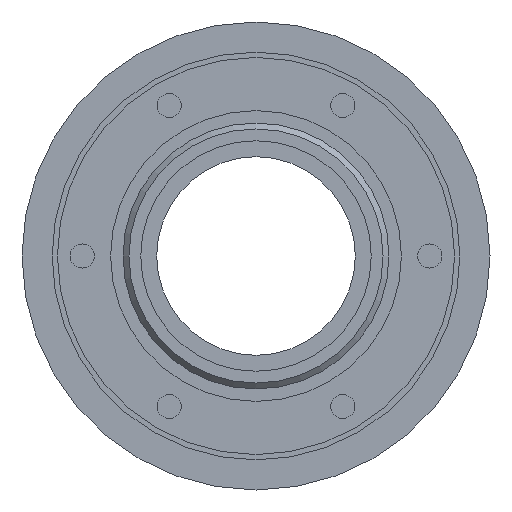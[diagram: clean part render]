
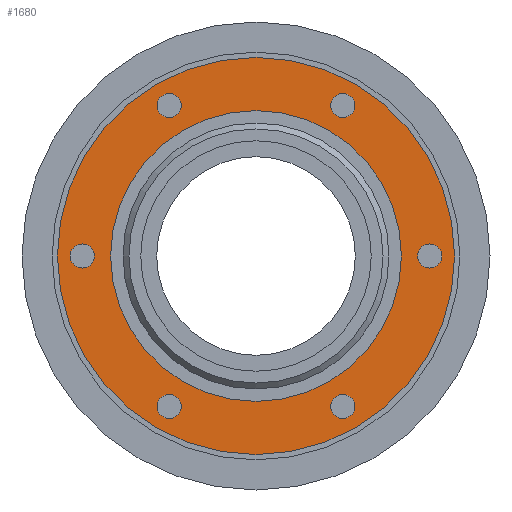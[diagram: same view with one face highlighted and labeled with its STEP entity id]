
A CAD part, left-side view. The second image highlights one B-rep face of the part: STEP entity #1680.
In plain terms, the highlighted planar face has unit normal (-1, 0, 0).
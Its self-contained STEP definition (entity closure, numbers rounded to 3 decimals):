
#24=FACE_BOUND('',#326,.T.);
#25=FACE_BOUND('',#327,.T.);
#26=FACE_BOUND('',#328,.T.);
#27=FACE_BOUND('',#329,.T.);
#28=FACE_BOUND('',#330,.T.);
#29=FACE_BOUND('',#331,.T.);
#30=FACE_BOUND('',#332,.T.);
#106=PLANE('',#1890);
#215=FACE_OUTER_BOUND('',#325,.T.);
#325=EDGE_LOOP('',(#1525));
#326=EDGE_LOOP('',(#1526));
#327=EDGE_LOOP('',(#1527));
#328=EDGE_LOOP('',(#1528));
#329=EDGE_LOOP('',(#1529));
#330=EDGE_LOOP('',(#1530));
#331=EDGE_LOOP('',(#1531));
#332=EDGE_LOOP('',(#1532));
#652=CIRCLE('',#1731,56.);
#653=CIRCLE('',#1733,41.);
#660=CIRCLE('',#1744,3.4);
#662=CIRCLE('',#1747,3.4);
#664=CIRCLE('',#1750,3.4);
#666=CIRCLE('',#1753,3.4);
#668=CIRCLE('',#1756,3.4);
#670=CIRCLE('',#1759,3.4);
#741=VERTEX_POINT('',#2466);
#742=VERTEX_POINT('',#2470);
#749=VERTEX_POINT('',#2492);
#751=VERTEX_POINT('',#2498);
#753=VERTEX_POINT('',#2504);
#755=VERTEX_POINT('',#2510);
#757=VERTEX_POINT('',#2516);
#759=VERTEX_POINT('',#2522);
#897=EDGE_CURVE('',#741,#741,#652,.T.);
#898=EDGE_CURVE('',#742,#742,#653,.T.);
#909=EDGE_CURVE('',#749,#749,#660,.T.);
#912=EDGE_CURVE('',#751,#751,#662,.T.);
#915=EDGE_CURVE('',#753,#753,#664,.T.);
#918=EDGE_CURVE('',#755,#755,#666,.T.);
#921=EDGE_CURVE('',#757,#757,#668,.T.);
#924=EDGE_CURVE('',#759,#759,#670,.T.);
#1525=ORIENTED_EDGE('',*,*,#897,.F.);
#1526=ORIENTED_EDGE('',*,*,#898,.T.);
#1527=ORIENTED_EDGE('',*,*,#924,.T.);
#1528=ORIENTED_EDGE('',*,*,#921,.T.);
#1529=ORIENTED_EDGE('',*,*,#918,.T.);
#1530=ORIENTED_EDGE('',*,*,#915,.T.);
#1531=ORIENTED_EDGE('',*,*,#912,.T.);
#1532=ORIENTED_EDGE('',*,*,#909,.T.);
#1680=ADVANCED_FACE('',(#215,#24,#25,#26,#27,#28,#29,#30),#106,.T.);
#1731=AXIS2_PLACEMENT_3D('',#2468,#1954,#1955);
#1733=AXIS2_PLACEMENT_3D('',#2471,#1958,#1959);
#1744=AXIS2_PLACEMENT_3D('',#2493,#1984,#1985);
#1747=AXIS2_PLACEMENT_3D('',#2499,#1991,#1992);
#1750=AXIS2_PLACEMENT_3D('',#2505,#1998,#1999);
#1753=AXIS2_PLACEMENT_3D('',#2511,#2005,#2006);
#1756=AXIS2_PLACEMENT_3D('',#2517,#2012,#2013);
#1759=AXIS2_PLACEMENT_3D('',#2523,#2019,#2020);
#1890=AXIS2_PLACEMENT_3D('',#2890,#2404,#2405);
#1954=DIRECTION('center_axis',(1.,0.,0.));
#1955=DIRECTION('ref_axis',(0.,0.,-1.));
#1958=DIRECTION('center_axis',(1.,0.,0.));
#1959=DIRECTION('ref_axis',(0.,0.,-1.));
#1984=DIRECTION('center_axis',(1.,0.,0.));
#1985=DIRECTION('ref_axis',(0.,0.,-1.));
#1991=DIRECTION('center_axis',(1.,0.,0.));
#1992=DIRECTION('ref_axis',(0.,0.,-1.));
#1998=DIRECTION('center_axis',(1.,0.,0.));
#1999=DIRECTION('ref_axis',(0.,0.,-1.));
#2005=DIRECTION('center_axis',(1.,0.,0.));
#2006=DIRECTION('ref_axis',(0.,0.,-1.));
#2012=DIRECTION('center_axis',(1.,0.,0.));
#2013=DIRECTION('ref_axis',(0.,0.,-1.));
#2019=DIRECTION('center_axis',(1.,0.,0.));
#2020=DIRECTION('ref_axis',(0.,0.,-1.));
#2404=DIRECTION('center_axis',(-1.,0.,0.));
#2405=DIRECTION('ref_axis',(0.,0.,1.));
#2466=CARTESIAN_POINT('',(15.,0.,56.));
#2468=CARTESIAN_POINT('Origin',(15.,0.,0.));
#2470=CARTESIAN_POINT('',(15.,0.,41.));
#2471=CARTESIAN_POINT('Origin',(15.,0.,0.));
#2492=CARTESIAN_POINT('',(15.,-49.,3.4));
#2493=CARTESIAN_POINT('Origin',(15.,-49.,0.));
#2498=CARTESIAN_POINT('',(15.,-24.5,-39.035));
#2499=CARTESIAN_POINT('Origin',(15.,-24.5,-42.435));
#2504=CARTESIAN_POINT('',(15.,24.5,-39.035));
#2505=CARTESIAN_POINT('Origin',(15.,24.5,-42.435));
#2510=CARTESIAN_POINT('',(15.,49.,3.4));
#2511=CARTESIAN_POINT('Origin',(15.,49.,0.));
#2516=CARTESIAN_POINT('',(15.,24.5,45.835));
#2517=CARTESIAN_POINT('Origin',(15.,24.5,42.435));
#2522=CARTESIAN_POINT('',(15.,-24.5,45.835));
#2523=CARTESIAN_POINT('Origin',(15.,-24.5,42.435));
#2890=CARTESIAN_POINT('Origin',(15.,0.,-48.5));
